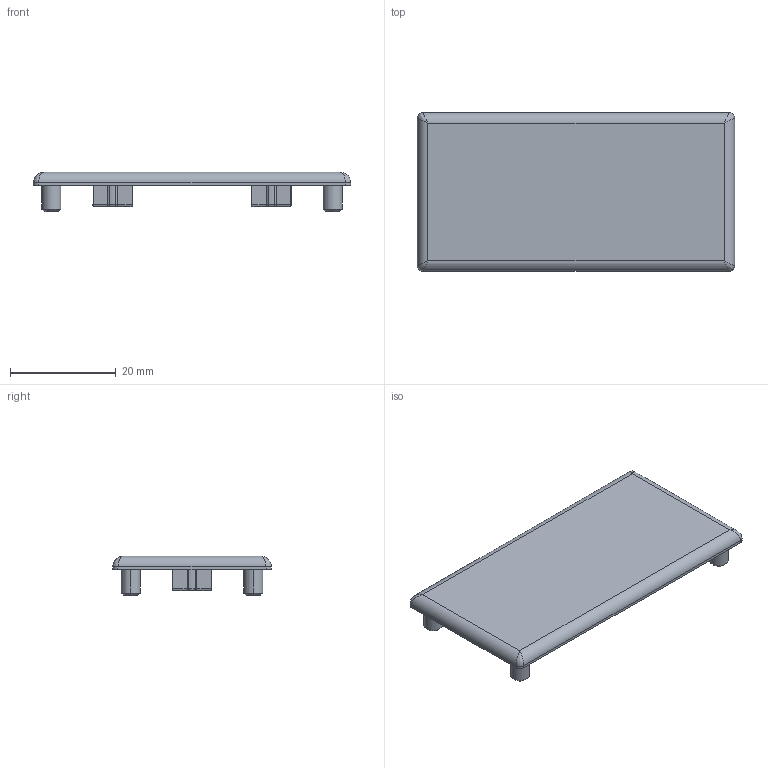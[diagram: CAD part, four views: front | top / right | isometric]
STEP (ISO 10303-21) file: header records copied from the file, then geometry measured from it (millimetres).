
FILE_DESCRIPTION (( 'STEP AP214' ), '1' );
FILE_NAME ('084.201.042.STEP', '2021-02-05T09:54:43', ( '' ), ( '' ), 'SwSTEP 2.0', 'SolidWorks 2018', '' );
FILE_SCHEMA (( 'AUTOMOTIVE_DESIGN' ));
Length unit declared in the file: millimetre
Products named in the file (1): 084.201.042
Bounding box: 60 x 30 x 7.5 mm (x, y, z)
Volume: 4607.6 mm3; surface area: 4454.1 mm2
Topology: 1 solids, 1 shells, 158 faces, 372 edges, 225 vertices
Faces by surface type: cylinder 58, plane 38, bspline 28, torus 26, cone 8
Entity records: 4867 total; most frequent: CARTESIAN_POINT 1364, ORIENTED_EDGE 736, DIRECTION 695, EDGE_CURVE 368, AXIS2_PLACEMENT_3D 268, VERTEX_POINT 225, EDGE_LOOP 171, LINE 159
